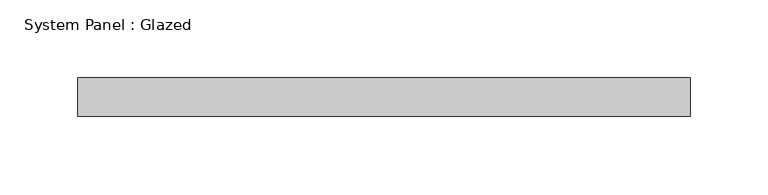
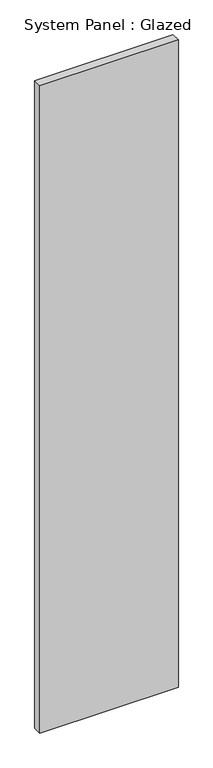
"""IFC4 building model written with IfcOpenShell, lengths in millimetres: plate geometry, System Panel : Glazed."""

from ifc_helpers import new_model, si_unit, origin, origin_with_axes, place, context, project, spatial, polyline, outline, extrude, source, transform, mapped, element, save


def system_panel_glazed_10bebfc7(model_context):
    return source(origin(), model_context, "Body", "SweptSolid", [
        extrude(outline(polyline([(197.3712947, 24.5), (-197.3712947, 24.5), (-197.3712947, 49.5), (197.3712947, 49.5), (197.3712947, 24.5)])), origin_with_axes(), (0.0, 0.0, 1.0), 1950.0),
    ])


if __name__ == "__main__":
    model = new_model("IFC4")
    model_context = context("Model", 3, world=origin())
    ifc_project = project(units=[si_unit("LENGTHUNIT", "METRE", prefix="MILLI")], contexts=[model_context])
    site = spatial("IfcSite", under=ifc_project)
    building = spatial("IfcBuilding", under=site)
    placement = place(None, origin())
    system_panel_glazed_shape = system_panel_glazed_10bebfc7(model_context)
    element("IfcPlate", 1, ObjectType="System Panel : Glazed", at=placement, inside=building, context=model_context, shape_type="MappedRepresentation", body=[
        mapped(system_panel_glazed_shape, transform((0.0, 0.0, 0.0), x_axis=(1.0, 0.0, 0.0), y_axis=(0.0, 1.0, 0.0), z_axis=(0.0, 0.0, 1.0))),
    ])
    save(model, "model.ifc")
